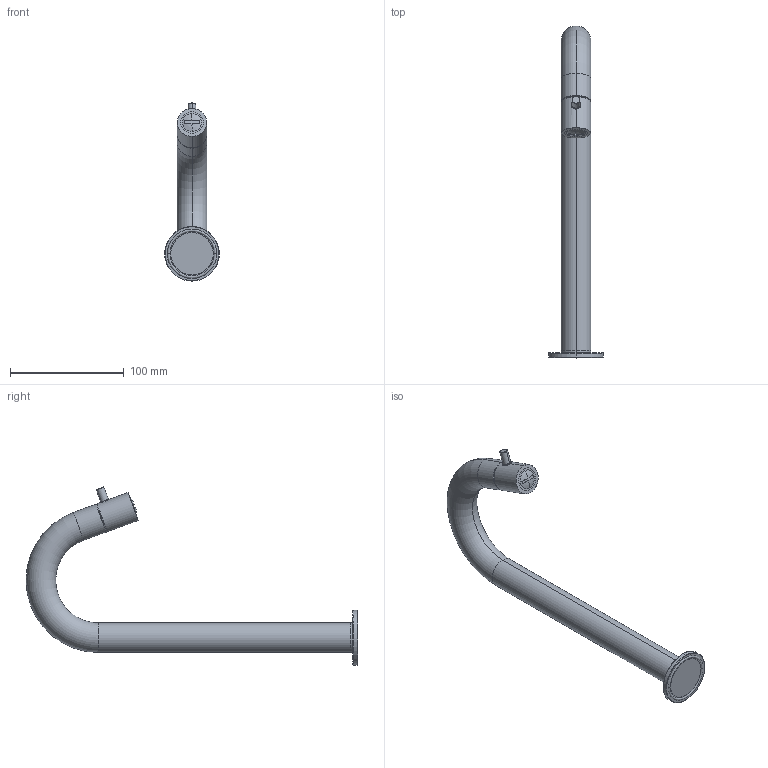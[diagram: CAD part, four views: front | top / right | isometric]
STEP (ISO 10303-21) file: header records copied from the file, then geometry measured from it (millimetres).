
FILE_DESCRIPTION((''),'2;1');
FILE_NAME('48047--00_SUB01_SW0001','2026-10-02T08:40:48',('simi1'),(''),'CREO PARAMETRIC BY PTC INC, 2022244','CREO PARAMETRIC BY PTC INC, 2022244','');
FILE_SCHEMA(('CONFIG_CONTROL_DESIGN'));
Length unit declared in the file: millimetre
Products named in the file (1): 48047--00_SUB01_SW0001
Bounding box: 48 x 291.41 x 156.37 mm (x, y, z)
Surface area: 42598.5 mm2 (no closed solid volume)
Topology: 0 solids, 11 shells, 48 faces, 103 edges, 64 vertices
Faces by surface type: torus 18, cylinder 14, plane 12, bspline 2, sphere 2
Entity records: 1603 total; most frequent: CARTESIAN_POINT 497, DIRECTION 267, ORIENTED_EDGE 180, AXIS2_PLACEMENT_3D 124, EDGE_CURVE 103, CIRCLE 78, VERTEX_POINT 64, EDGE_LOOP 48
